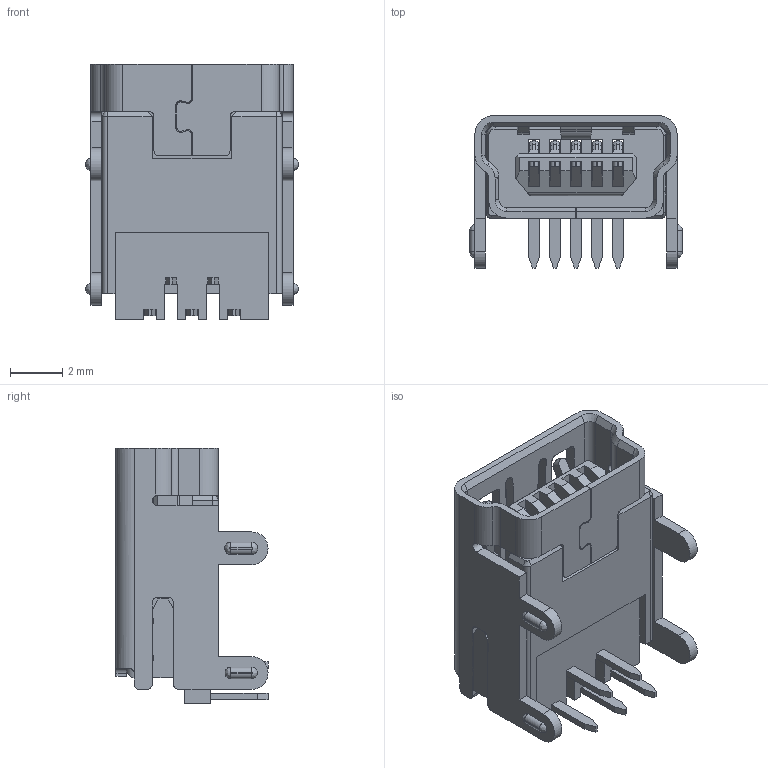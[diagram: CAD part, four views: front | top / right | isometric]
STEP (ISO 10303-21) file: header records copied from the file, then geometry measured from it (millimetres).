
FILE_DESCRIPTION((''),'2;1');
FILE_NAME('MINI-USB_1030505AT002','2018-08-04T',('Administrator'),(''),'PRO/ENGINEER BY PARAMETRIC TECHNOLOGY CORPORATION, 2010280','PRO/ENGINEER BY PARAMETRIC TECHNOLOGY CORPORATION, 2010280','');
FILE_SCHEMA(('CONFIG_CONTROL_DESIGN'));
Length unit declared in the file: millimetre
Products named in the file (1): MINI-USB_1030505AT002
Bounding box: 8.1 x 5.8 x 9.75 mm (x, y, z)
Volume: 89 mm3; surface area: 769.5 mm2
Topology: 1 solids, 2 shells, 797 faces, 2355 edges, 1537 vertices
Faces by surface type: plane 576, cylinder 189, cone 22, bspline 10
Entity records: 27620 total; most frequent: CARTESIAN_POINT 6195, ORIENTED_EDGE 4697, DIRECTION 4181, EDGE_CURVE 2355, VECTOR 1887, LINE 1887, VERTEX_POINT 1537, AXIS2_PLACEMENT_3D 1147
